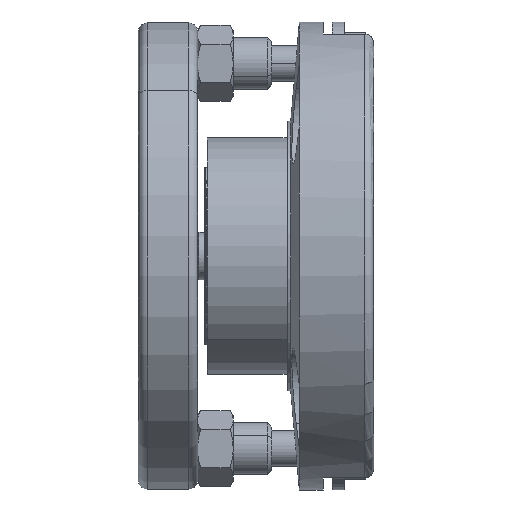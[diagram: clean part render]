
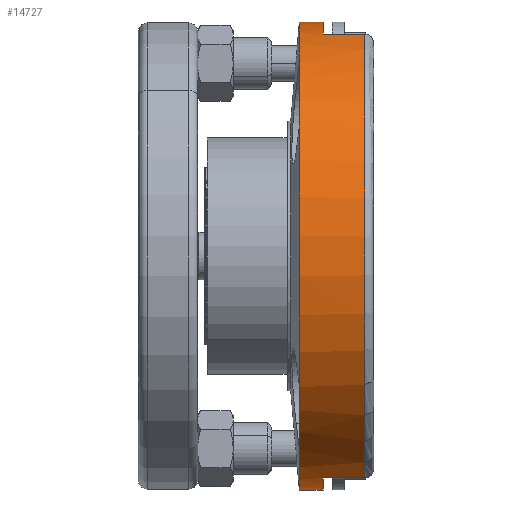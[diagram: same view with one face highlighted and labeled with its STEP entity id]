
A CAD part, left-side view. The second image highlights one B-rep face of the part: STEP entity #14727.
In plain terms, the highlighted cylindrical face has radius 79 mm (diameter 158 mm), a partial arc.
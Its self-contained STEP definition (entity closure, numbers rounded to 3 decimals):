
#78 = CARTESIAN_POINT ( 'NONE',  ( 0., 0., -79. ) ) ;
#84 = CIRCLE ( 'NONE', #4058, 79. ) ;
#352 = CARTESIAN_POINT ( 'NONE',  ( 0., 25.069, 0. ) ) ;
#467 = DIRECTION ( 'NONE',  ( 0., 0., -1. ) ) ;
#506 = EDGE_CURVE ( 'NONE', #1718, #4612, #5223, .T. ) ;
#642 = CARTESIAN_POINT ( 'NONE',  ( -25., 0., 74.94 ) ) ;
#727 = CARTESIAN_POINT ( 'NONE',  ( 0., 25.069, -79. ) ) ;
#861 = CARTESIAN_POINT ( 'NONE',  ( -65.452, 25., 44.239 ) ) ;
#889 = DIRECTION ( 'NONE',  ( 0., 0., -1. ) ) ;
#1150 = LINE ( 'NONE', #642, #3152 ) ;
#1168 = ORIENTED_EDGE ( 'NONE', *, *, #2996, .T. ) ;
#1185 = EDGE_CURVE ( 'NONE', #4435, #5118, #10733, .T. ) ;
#1312 = AXIS2_PLACEMENT_3D ( 'NONE', #6345, #14542, #7514 ) ;
#1488 = AXIS2_PLACEMENT_3D ( 'NONE', #14931, #7905, #889 ) ;
#1536 = DIRECTION ( 'NONE',  ( 0., 0., -1. ) ) ;
#1707 = CARTESIAN_POINT ( 'NONE',  ( -65.452, 0., 44.239 ) ) ;
#1718 = VERTEX_POINT ( 'NONE', #9580 ) ;
#1824 = DIRECTION ( 'NONE',  ( 0., -1., 0. ) ) ;
#2015 = FACE_OUTER_BOUND ( 'NONE', #4078, .T. ) ;
#2147 = EDGE_CURVE ( 'NONE', #11096, #10181, #14956, .T. ) ;
#2494 = DIRECTION ( 'NONE',  ( 0., 1., 0. ) ) ;
#2534 = CARTESIAN_POINT ( 'NONE',  ( -25., 3., -74.94 ) ) ;
#2745 = DIRECTION ( 'NONE',  ( 0., 1., 0. ) ) ;
#2779 = VERTEX_POINT ( 'NONE', #8011 ) ;
#2996 = EDGE_CURVE ( 'NONE', #2779, #5788, #9260, .T. ) ;
#3152 = VECTOR ( 'NONE', #1824, 1000. ) ;
#3281 = EDGE_CURVE ( 'NONE', #8575, #13210, #84, .T. ) ;
#3583 = DIRECTION ( 'NONE',  ( 0., -1., 0. ) ) ;
#3660 = ORIENTED_EDGE ( 'NONE', *, *, #13228, .F. ) ;
#3682 = LINE ( 'NONE', #7552, #13037 ) ;
#3720 = VERTEX_POINT ( 'NONE', #6771 ) ;
#4058 = AXIS2_PLACEMENT_3D ( 'NONE', #9514, #2494, #10708 ) ;
#4078 = EDGE_LOOP ( 'NONE', ( #14725, #7107, #3660, #15163, #14462, #6061, #13600, #12062, #13632, #1168, #10442, #12219, #10088, #7388, #11884, #14290 ) ) ;
#4347 = DIRECTION ( 'NONE',  ( 0., -1., 0. ) ) ;
#4350 = CARTESIAN_POINT ( 'NONE',  ( -44.239, 25.069, 65.452 ) ) ;
#4384 = EDGE_CURVE ( 'NONE', #11096, #9472, #9037, .T. ) ;
#4399 = CIRCLE ( 'NONE', #11532, 79. ) ;
#4435 = VERTEX_POINT ( 'NONE', #8814 ) ;
#4612 = VERTEX_POINT ( 'NONE', #4350 ) ;
#4652 = CARTESIAN_POINT ( 'NONE',  ( -25., 3., 74.94 ) ) ;
#4972 = VERTEX_POINT ( 'NONE', #8317 ) ;
#4973 = CARTESIAN_POINT ( 'NONE',  ( 0., 25., 0. ) ) ;
#5048 = DIRECTION ( 'NONE',  ( 0., -1., 0. ) ) ;
#5112 = CIRCLE ( 'NONE', #11943, 79. ) ;
#5118 = VERTEX_POINT ( 'NONE', #8654 ) ;
#5223 = CIRCLE ( 'NONE', #1488, 79. ) ;
#5363 = VECTOR ( 'NONE', #7011, 1000. ) ;
#5432 = DIRECTION ( 'NONE',  ( 0., -1., 0. ) ) ;
#5728 = LINE ( 'NONE', #11694, #5363 ) ;
#5788 = VERTEX_POINT ( 'NONE', #727 ) ;
#6061 = ORIENTED_EDGE ( 'NONE', *, *, #2147, .T. ) ;
#6163 = DIRECTION ( 'NONE',  ( 0., 0., 1. ) ) ;
#6345 = CARTESIAN_POINT ( 'NONE',  ( 0., 25.069, 0. ) ) ;
#6608 = CARTESIAN_POINT ( 'NONE',  ( -44.239, 0., -65.452 ) ) ;
#6614 = LINE ( 'NONE', #78, #9366 ) ;
#6771 = CARTESIAN_POINT ( 'NONE',  ( 0., 17., 79. ) ) ;
#6788 = EDGE_CURVE ( 'NONE', #2779, #10949, #8518, .T. ) ;
#7001 = LINE ( 'NONE', #9481, #7354 ) ;
#7011 = DIRECTION ( 'NONE',  ( 0., 1., 0. ) ) ;
#7107 = ORIENTED_EDGE ( 'NONE', *, *, #506, .T. ) ;
#7354 = VECTOR ( 'NONE', #10665, 1000. ) ;
#7388 = ORIENTED_EDGE ( 'NONE', *, *, #3281, .T. ) ;
#7490 = DIRECTION ( 'NONE',  ( 0., 1., 0. ) ) ;
#7514 = DIRECTION ( 'NONE',  ( 0., 0., -1. ) ) ;
#7552 = CARTESIAN_POINT ( 'NONE',  ( -65.452, 0., -44.239 ) ) ;
#7851 = VERTEX_POINT ( 'NONE', #10460 ) ;
#7905 = DIRECTION ( 'NONE',  ( 0., -1., 0. ) ) ;
#8011 = CARTESIAN_POINT ( 'NONE',  ( -44.239, 25.069, -65.452 ) ) ;
#8129 = EDGE_CURVE ( 'NONE', #7851, #3720, #4399, .T. ) ;
#8317 = CARTESIAN_POINT ( 'NONE',  ( -44.239, 25., 65.452 ) ) ;
#8518 = LINE ( 'NONE', #6608, #14752 ) ;
#8528 = EDGE_CURVE ( 'NONE', #5788, #5118, #6614, .T. ) ;
#8549 = DIRECTION ( 'NONE',  ( 0., -1., 0. ) ) ;
#8575 = VERTEX_POINT ( 'NONE', #2534 ) ;
#8654 = CARTESIAN_POINT ( 'NONE',  ( 0., 17., -79. ) ) ;
#8814 = CARTESIAN_POINT ( 'NONE',  ( -25., 17., -74.94 ) ) ;
#9037 = LINE ( 'NONE', #1707, #11819 ) ;
#9199 = EDGE_CURVE ( 'NONE', #4972, #9472, #5112, .T. ) ;
#9260 = CIRCLE ( 'NONE', #11750, 79. ) ;
#9366 = VECTOR ( 'NONE', #14129, 1000. ) ;
#9372 = CARTESIAN_POINT ( 'NONE',  ( -44.239, 25., -65.452 ) ) ;
#9449 = AXIS2_PLACEMENT_3D ( 'NONE', #10905, #5048, #12078 ) ;
#9472 = VERTEX_POINT ( 'NONE', #861 ) ;
#9481 = CARTESIAN_POINT ( 'NONE',  ( -25., 0., -74.94 ) ) ;
#9487 = AXIS2_PLACEMENT_3D ( 'NONE', #14517, #7490, #467 ) ;
#9514 = CARTESIAN_POINT ( 'NONE',  ( 0., 3., 0. ) ) ;
#9580 = CARTESIAN_POINT ( 'NONE',  ( 0., 25.069, 79. ) ) ;
#9637 = EDGE_CURVE ( 'NONE', #1718, #3720, #14086, .T. ) ;
#9772 = CARTESIAN_POINT ( 'NONE',  ( 0., 17., 0. ) ) ;
#9856 = DIRECTION ( 'NONE',  ( 0., 1., 0. ) ) ;
#10009 = EDGE_CURVE ( 'NONE', #10949, #13706, #10409, .T. ) ;
#10088 = ORIENTED_EDGE ( 'NONE', *, *, #13971, .F. ) ;
#10181 = VERTEX_POINT ( 'NONE', #12671 ) ;
#10344 = AXIS2_PLACEMENT_3D ( 'NONE', #11390, #4347, #12572 ) ;
#10409 = CIRCLE ( 'NONE', #9487, 79. ) ;
#10435 = CARTESIAN_POINT ( 'NONE',  ( -65.452, 25., -44.239 ) ) ;
#10442 = ORIENTED_EDGE ( 'NONE', *, *, #8528, .T. ) ;
#10460 = CARTESIAN_POINT ( 'NONE',  ( -25., 17., 74.94 ) ) ;
#10661 = CYLINDRICAL_SURFACE ( 'NONE', #9449, 79. ) ;
#10665 = DIRECTION ( 'NONE',  ( 0., 1., 0. ) ) ;
#10708 = DIRECTION ( 'NONE',  ( 0., 0., -1. ) ) ;
#10733 = CIRCLE ( 'NONE', #10344, 79. ) ;
#10773 = CARTESIAN_POINT ( 'NONE',  ( -65.452, 25.069, 44.239 ) ) ;
#10905 = CARTESIAN_POINT ( 'NONE',  ( 0., 0., 0. ) ) ;
#10949 = VERTEX_POINT ( 'NONE', #9372 ) ;
#10964 = DIRECTION ( 'NONE',  ( 0., 0., -1. ) ) ;
#10966 = VECTOR ( 'NONE', #3583, 1000. ) ;
#11092 = DIRECTION ( 'NONE',  ( 0., -1., 0. ) ) ;
#11096 = VERTEX_POINT ( 'NONE', #10773 ) ;
#11390 = CARTESIAN_POINT ( 'NONE',  ( 0., 17., 0. ) ) ;
#11532 = AXIS2_PLACEMENT_3D ( 'NONE', #9772, #2745, #10964 ) ;
#11694 = CARTESIAN_POINT ( 'NONE',  ( -44.239, 0., 65.452 ) ) ;
#11750 = AXIS2_PLACEMENT_3D ( 'NONE', #352, #8549, #1536 ) ;
#11819 = VECTOR ( 'NONE', #11092, 1000. ) ;
#11848 = CARTESIAN_POINT ( 'NONE',  ( 0., 0., 79. ) ) ;
#11884 = ORIENTED_EDGE ( 'NONE', *, *, #12954, .F. ) ;
#11943 = AXIS2_PLACEMENT_3D ( 'NONE', #4973, #13175, #6163 ) ;
#12062 = ORIENTED_EDGE ( 'NONE', *, *, #10009, .F. ) ;
#12078 = DIRECTION ( 'NONE',  ( 0., 0., -1. ) ) ;
#12219 = ORIENTED_EDGE ( 'NONE', *, *, #1185, .F. ) ;
#12572 = DIRECTION ( 'NONE',  ( 0., 0., 1. ) ) ;
#12671 = CARTESIAN_POINT ( 'NONE',  ( -65.452, 25.069, -44.239 ) ) ;
#12954 = EDGE_CURVE ( 'NONE', #7851, #13210, #1150, .T. ) ;
#13037 = VECTOR ( 'NONE', #9856, 1000. ) ;
#13175 = DIRECTION ( 'NONE',  ( 0., -1., 0. ) ) ;
#13210 = VERTEX_POINT ( 'NONE', #4652 ) ;
#13228 = EDGE_CURVE ( 'NONE', #4972, #4612, #5728, .T. ) ;
#13600 = ORIENTED_EDGE ( 'NONE', *, *, #14801, .F. ) ;
#13632 = ORIENTED_EDGE ( 'NONE', *, *, #6788, .F. ) ;
#13706 = VERTEX_POINT ( 'NONE', #10435 ) ;
#13971 = EDGE_CURVE ( 'NONE', #8575, #4435, #7001, .T. ) ;
#14086 = LINE ( 'NONE', #11848, #10966 ) ;
#14129 = DIRECTION ( 'NONE',  ( 0., -1., 0. ) ) ;
#14290 = ORIENTED_EDGE ( 'NONE', *, *, #8129, .T. ) ;
#14462 = ORIENTED_EDGE ( 'NONE', *, *, #4384, .F. ) ;
#14517 = CARTESIAN_POINT ( 'NONE',  ( 0., 25., 0. ) ) ;
#14542 = DIRECTION ( 'NONE',  ( 0., -1., 0. ) ) ;
#14725 = ORIENTED_EDGE ( 'NONE', *, *, #9637, .F. ) ;
#14727 = ADVANCED_FACE ( 'NONE', ( #2015 ), #10661, .T. ) ;
#14752 = VECTOR ( 'NONE', #5432, 1000. ) ;
#14801 = EDGE_CURVE ( 'NONE', #13706, #10181, #3682, .T. ) ;
#14931 = CARTESIAN_POINT ( 'NONE',  ( 0., 25.069, 0. ) ) ;
#14956 = CIRCLE ( 'NONE', #1312, 79. ) ;
#15163 = ORIENTED_EDGE ( 'NONE', *, *, #9199, .T. ) ;
